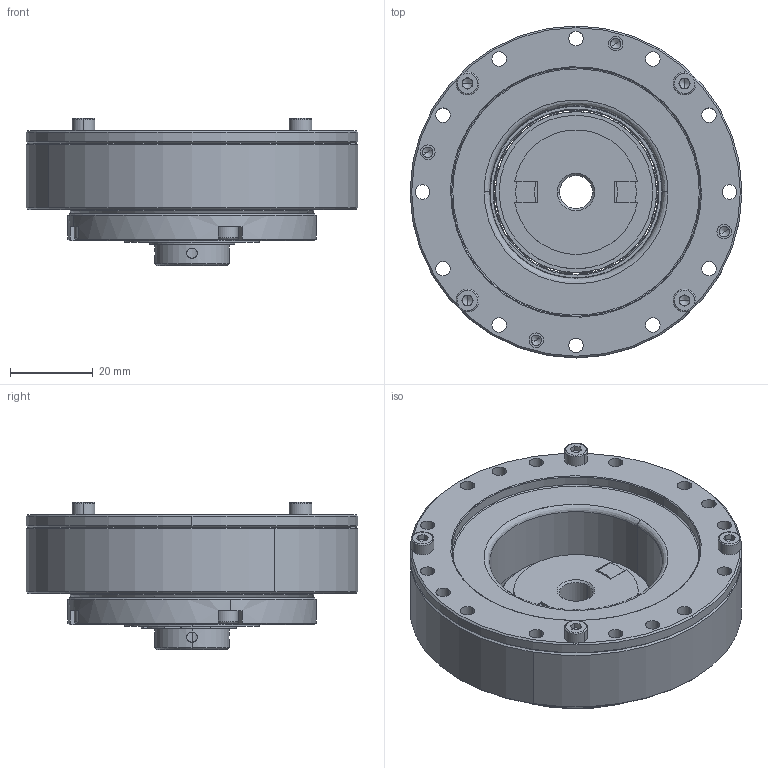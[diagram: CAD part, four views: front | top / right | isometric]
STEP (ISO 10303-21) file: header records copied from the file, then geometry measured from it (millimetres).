
FILE_DESCRIPTION (( 'STEP AP203' ), '1' );
FILE_NAME ('LHSG-17-XXX-C-II.step', '2025-01-07T07:23:55', ( '' ), ( '' ), 'SwSTEP 2.0', 'SolidWorks 2023', '' );
FILE_SCHEMA (( 'CONFIG_CONTROL_DESIGN' ));
Length unit declared in the file: metre
Products named in the file (1): LHSG-17-XXX-C-II
Bounding box: 80 x 80 x 35.5 mm (x, y, z)
Volume: 76768.9 mm3; surface area: 67638.2 mm2
Topology: 44 solids, 44 shells, 917 faces, 2299 edges, 1370 vertices
Faces by surface type: cylinder 393, plane 260, cone 144, bspline 120
Entity records: 30093 total; most frequent: CARTESIAN_POINT 8413, DIRECTION 4813, ORIENTED_EDGE 4270, EDGE_CURVE 2135, AXIS2_PLACEMENT_3D 1968, VERTEX_POINT 1370, CIRCLE 1170, EDGE_LOOP 1133
